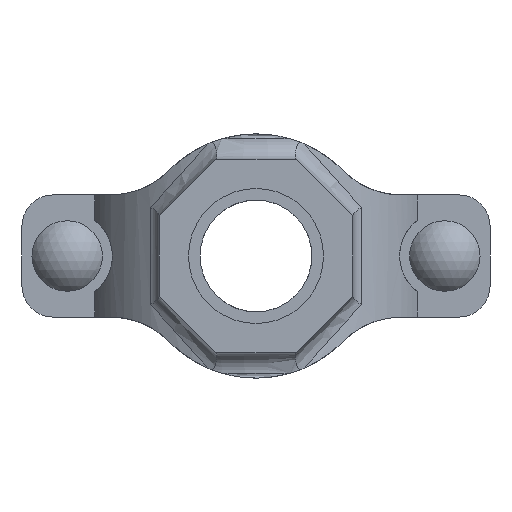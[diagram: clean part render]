
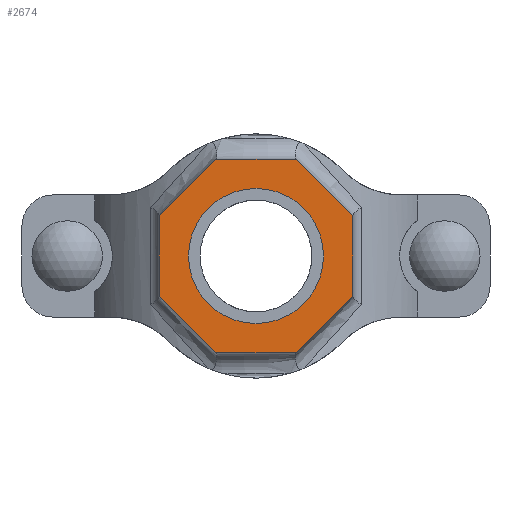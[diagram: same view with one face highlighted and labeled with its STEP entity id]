
A CAD part, front view. The second image highlights one B-rep face of the part: STEP entity #2674.
In plain terms, the highlighted planar face has unit normal (0, -1, 0) as drawn and (0, 1, 0) by its records, which use the part's own axes.
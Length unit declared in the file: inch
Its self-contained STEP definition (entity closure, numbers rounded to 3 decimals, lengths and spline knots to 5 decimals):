
#214=FACE_BOUND('',#494,.T.);
#338=FACE_OUTER_BOUND('',#493,.T.);
#493=EDGE_LOOP('',(#2236,#2237,#2238,#2239,#2240,#2241,#2242,#2243));
#494=EDGE_LOOP('',(#2244));
#634=LINE('',#4985,#820);
#637=LINE('',#4990,#823);
#639=LINE('',#4994,#825);
#641=LINE('',#4998,#827);
#673=LINE('',#5315,#859);
#675=LINE('',#5319,#861);
#677=LINE('',#5323,#863);
#679=LINE('',#5326,#865);
#820=VECTOR('',#3440,0.3937);
#823=VECTOR('',#3445,0.3937);
#825=VECTOR('',#3449,0.3937);
#827=VECTOR('',#3453,0.3937);
#859=VECTOR('',#3567,0.3937);
#861=VECTOR('',#3571,0.3937);
#863=VECTOR('',#3575,0.3937);
#865=VECTOR('',#3579,0.3937);
#955=CIRCLE('',#2943,0.83);
#1159=VERTEX_POINT('',#4982);
#1160=VERTEX_POINT('',#4984);
#1161=VERTEX_POINT('',#4988);
#1162=VERTEX_POINT('',#4992);
#1163=VERTEX_POINT('',#4996);
#1184=VERTEX_POINT('',#5143);
#1207=VERTEX_POINT('',#5314);
#1208=VERTEX_POINT('',#5318);
#1209=VERTEX_POINT('',#5322);
#1493=EDGE_CURVE('',#1160,#1159,#634,.T.);
#1496=EDGE_CURVE('',#1159,#1161,#637,.T.);
#1498=EDGE_CURVE('',#1161,#1162,#639,.T.);
#1500=EDGE_CURVE('',#1162,#1163,#641,.T.);
#1531=EDGE_CURVE('',#1184,#1184,#955,.T.);
#1562=EDGE_CURVE('',#1207,#1160,#673,.T.);
#1564=EDGE_CURVE('',#1208,#1207,#675,.T.);
#1566=EDGE_CURVE('',#1209,#1208,#677,.T.);
#1568=EDGE_CURVE('',#1163,#1209,#679,.T.);
#2236=ORIENTED_EDGE('',*,*,#1568,.T.);
#2237=ORIENTED_EDGE('',*,*,#1566,.T.);
#2238=ORIENTED_EDGE('',*,*,#1564,.T.);
#2239=ORIENTED_EDGE('',*,*,#1562,.T.);
#2240=ORIENTED_EDGE('',*,*,#1493,.T.);
#2241=ORIENTED_EDGE('',*,*,#1496,.T.);
#2242=ORIENTED_EDGE('',*,*,#1498,.T.);
#2243=ORIENTED_EDGE('',*,*,#1500,.T.);
#2244=ORIENTED_EDGE('',*,*,#1531,.T.);
#2404=PLANE('',#2964);
#2674=ADVANCED_FACE('',(#338,#214),#2404,.T.);
#2943=AXIS2_PLACEMENT_3D('',#5144,#3517,#3518);
#2964=AXIS2_PLACEMENT_3D('',#5327,#3580,#3581);
#3440=DIRECTION('',(0.,0.,1.));
#3445=DIRECTION('',(0.707,0.,0.707));
#3449=DIRECTION('',(1.,0.,0.));
#3453=DIRECTION('',(0.707,0.,-0.707));
#3517=DIRECTION('center_axis',(0.,-1.,0.));
#3518=DIRECTION('ref_axis',(-1.,0.,0.));
#3567=DIRECTION('',(-0.707,0.,0.707));
#3571=DIRECTION('',(-1.,0.,0.));
#3575=DIRECTION('',(-0.707,0.,-0.707));
#3579=DIRECTION('',(0.,0.,-1.));
#3580=DIRECTION('center_axis',(0.,1.,0.));
#3581=DIRECTION('ref_axis',(0.,0.,1.));
#4982=CARTESIAN_POINT('',(-1.19,3.25,0.49291));
#4984=CARTESIAN_POINT('',(-1.19,3.25,-0.49291));
#4985=CARTESIAN_POINT('',(-1.19,3.25,0.49291));
#4988=CARTESIAN_POINT('',(-0.49291,3.25,1.19));
#4990=CARTESIAN_POINT('',(-0.49291,3.25,1.19));
#4992=CARTESIAN_POINT('',(0.49291,3.25,1.19));
#4994=CARTESIAN_POINT('',(0.49291,3.25,1.19));
#4996=CARTESIAN_POINT('',(1.19,3.25,0.49291));
#4998=CARTESIAN_POINT('',(1.19,3.25,0.49291));
#5143=CARTESIAN_POINT('',(0.83,3.25,0.));
#5144=CARTESIAN_POINT('Origin',(0.,3.25,0.));
#5314=CARTESIAN_POINT('',(-0.49291,3.25,-1.19));
#5315=CARTESIAN_POINT('',(-1.19,3.25,-0.49291));
#5318=CARTESIAN_POINT('',(0.49291,3.25,-1.19));
#5319=CARTESIAN_POINT('',(-0.49291,3.25,-1.19));
#5322=CARTESIAN_POINT('',(1.19,3.25,-0.49291));
#5323=CARTESIAN_POINT('',(0.49291,3.25,-1.19));
#5326=CARTESIAN_POINT('',(1.19,3.25,-0.49291));
#5327=CARTESIAN_POINT('Origin',(0.,3.25,0.));
